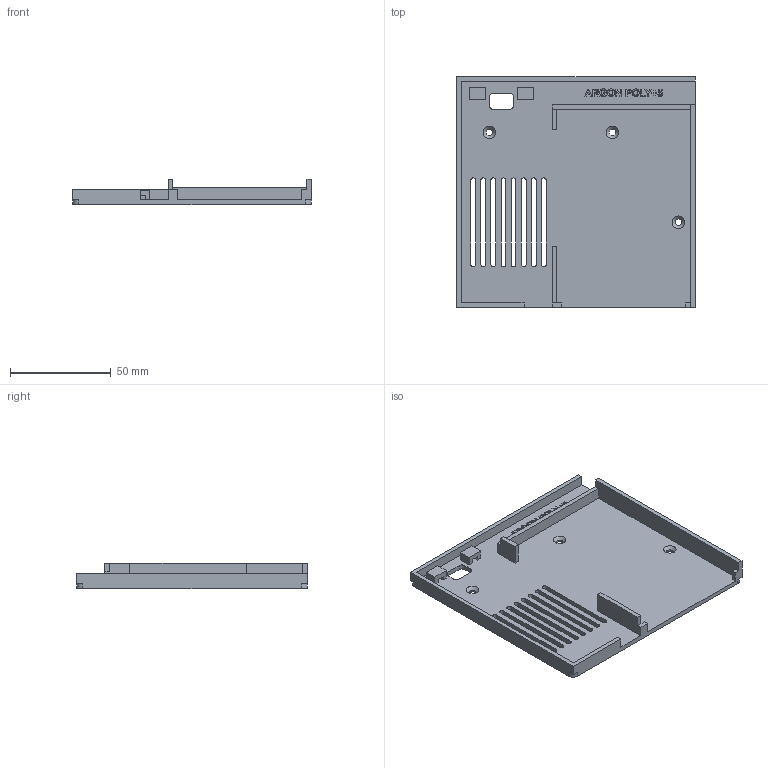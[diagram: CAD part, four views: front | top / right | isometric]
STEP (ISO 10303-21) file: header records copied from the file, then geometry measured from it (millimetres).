
FILE_DESCRIPTION(('Open CASCADE Model'),'2;1');
FILE_NAME('Open CASCADE Shape Model','2026-10-27T16:55:36',('Author'),( 'Open CASCADE'),'Open CASCADE STEP processor 7.9','Open CASCADE 7.9' ,'Unknown');
FILE_SCHEMA(('AUTOMOTIVE_DESIGN { 1 0 10303 214 1 1 1 1 }'));
Length unit declared in the file: millimetre
Products named in the file (1): Open CASCADE STEP translator 7.9 2
Bounding box: 118.3 x 114.4 x 12.4 mm (x, y, z)
Volume: 37346.7 mm3; surface area: 35025.6 mm2
Topology: 1 solids, 1 shells, 296 faces, 828 edges, 550 vertices
Faces by surface type: plane 169, extrusion 97, cylinder 27, cone 3
Full cylindrical faces by diameter (mm): 3.4 x3
Entity records: 20387 total; most frequent: CARTESIAN_POINT 4651, DIRECTION 2496, VECTOR 1964, LINE 1867, ORIENTED_EDGE 1656, PCURVE 1656, DEFINITIONAL_REPRESENTATION 1656, EDGE_CURVE 828
